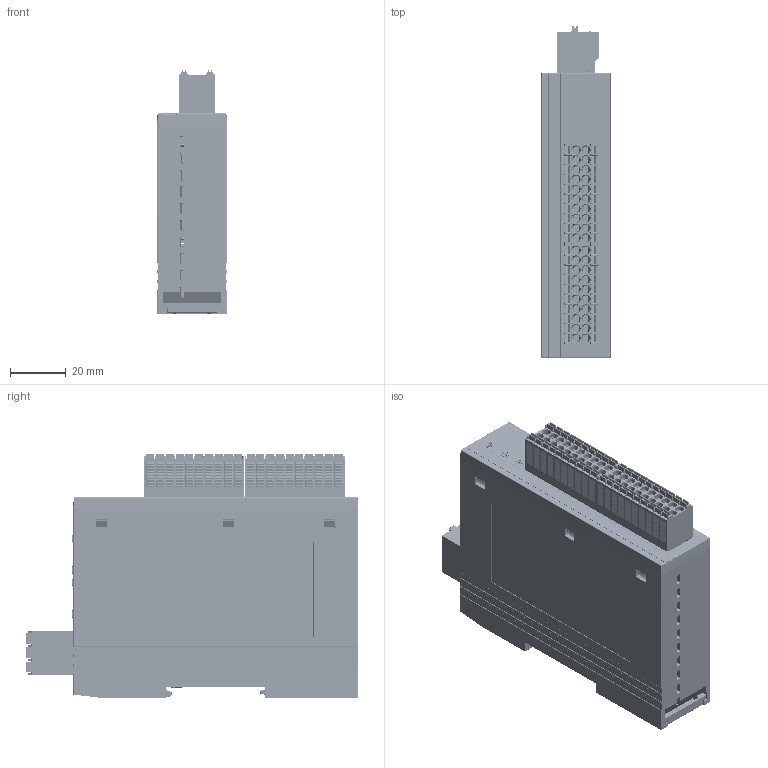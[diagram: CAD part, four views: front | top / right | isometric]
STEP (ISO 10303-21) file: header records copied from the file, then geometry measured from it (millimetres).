
FILE_DESCRIPTION((''),'2;1');
FILE_NAME('EI4_CB4_1_V1_00','2023-09-28T14:00:05',('董'),(''),'CREO PARAMETRIC BY PTC INC, 2020033','CREO PARAMETRIC BY PTC INC, 2020033','');
FILE_SCHEMA(('CONFIG_CONTROL_DESIGN'));
Products named in the file (1): EI4_CB4_1_V1_00
Bounding box: 25 x 118.9 x 87.5 mm (x, y, z)
Volume: 68832.4 mm3; surface area: 78294.6 mm2
Topology: 1 solids, 3 shells, 9720 faces, 25636 edges, 15793 vertices
Faces by surface type: plane 5860, cylinder 2609, bspline 582, cone 257, sphere 216, torus 188, extrusion 8
Entity records: 321341 total; most frequent: CARTESIAN_POINT 87304, ORIENTED_EDGE 50866, DIRECTION 45219, EDGE_CURVE 25433, VECTOR 18311, LINE 18303, VERTEX_POINT 15793, AXIS2_PLACEMENT_3D 13454
